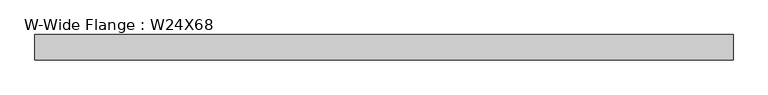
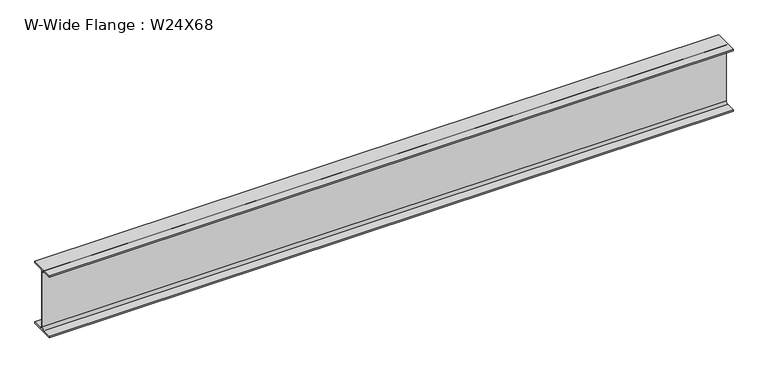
"""IFC4 building model written with IfcOpenShell, lengths in millimetres: beam geometry, W-Wide Flange : W24X68."""

from ifc_helpers import new_model, si_unit, point, frame, frame_2d, origin, place, context, project, spatial, polyline, circle_curve, trimmed, segment, composite_curve, outline, extrude, source, transform, mapped, element, save


def w_wide_flange_w24x68_b8d53f7a(model_context):
    return source(origin(), model_context, "Body", "SweptSolid", [
        extrude(outline(composite_curve([segment(polyline([(113.919, -286.131), (113.919, -300.99), (-113.919, -300.99), (-113.919, -286.131), (-28.5115, -286.131)]), True, "CONTINUOUS"), segment(trimmed(circle_curve(frame_2d((-28.5115, -262.89)), 23.241), [point((-28.5115, -286.131))], [point((-5.2705, -262.89))], True, "CARTESIAN"), True, "CONTINUOUS"), segment(polyline([(-5.2705, -262.89), (-5.2705, 262.89)]), True, "CONTINUOUS"), segment(trimmed(circle_curve(frame_2d((-28.5115, 262.89)), 23.241), [point((-5.2705, 262.89))], [point((-28.5115, 286.131))], True, "CARTESIAN"), True, "CONTINUOUS"), segment(polyline([(-28.5115, 286.131), (-113.919, 286.131), (-113.919, 300.99), (113.919, 300.99), (113.919, 286.131), (28.5115, 286.131)]), True, "CONTINUOUS"), segment(trimmed(circle_curve(frame_2d((28.5115, 262.89)), 23.241), [point((28.5115, 286.131))], [point((5.2705, 262.89))], True, "CARTESIAN"), True, "CONTINUOUS"), segment(polyline([(5.2705, 262.89), (5.2705, -262.89)]), True, "CONTINUOUS"), segment(trimmed(circle_curve(frame_2d((28.5115, -262.89)), 23.241), [point((5.2705, -262.89))], [point((28.5115, -286.131))], True, "CARTESIAN"), True, "CONTINUOUS"), segment(polyline([(28.5115, -286.131), (113.919, -286.131)]), True, "CONTINUOUS")], self_intersect=False)), frame((-3130.8675, 0.0, 0.0), z_axis=(1.0, 0.0, 0.0), x_axis=(0.0, 1.0, 0.0)), (0.0, 0.0, 1.0), 6271.26),
    ])


if __name__ == "__main__":
    model = new_model("IFC4")
    model_context = context("Model", 3, world=origin())
    ifc_project = project(units=[si_unit("LENGTHUNIT", "METRE", prefix="MILLI")], contexts=[model_context])
    site = spatial("IfcSite", under=ifc_project)
    building = spatial("IfcBuilding", under=site)
    placement = place(None, origin())
    w_wide_flange_w24x68_shape = w_wide_flange_w24x68_b8d53f7a(model_context)
    element("IfcBeam", 1, ObjectType="W-Wide Flange : W24X68", at=placement, inside=building, context=model_context, shape_type="MappedRepresentation", body=[
        mapped(w_wide_flange_w24x68_shape, transform((0.0, 0.0, 0.0), x_axis=(1.0, 0.0, 0.0), y_axis=(0.0, 1.0, 0.0), z_axis=(0.0, 0.0, 1.0))),
    ])
    save(model, "model.ifc")
